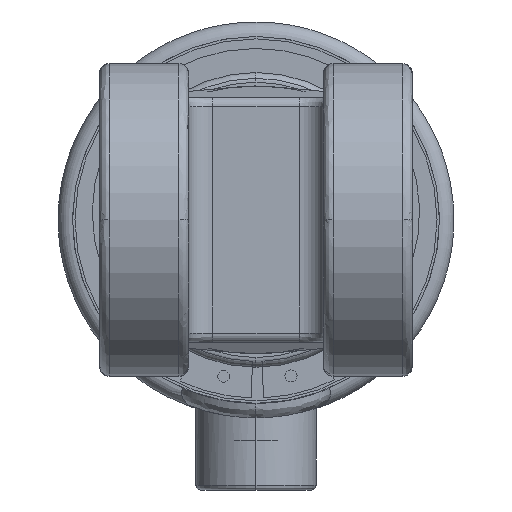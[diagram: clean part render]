
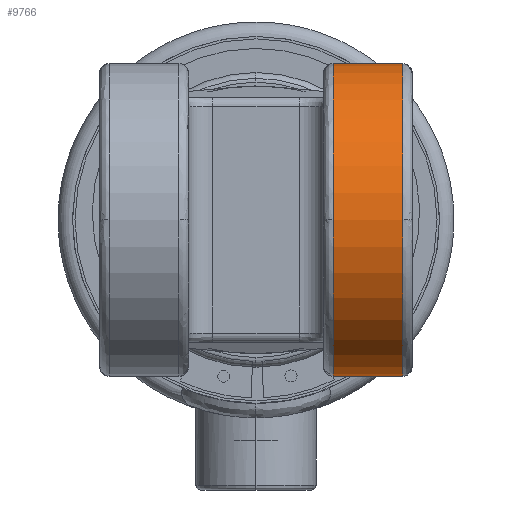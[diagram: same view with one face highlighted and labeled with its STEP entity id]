
A CAD part, left-side view. The second image highlights one B-rep face of the part: STEP entity #9766.
In plain terms, the highlighted cylindrical face has radius 32.5 mm (diameter 65 mm), a partial arc.
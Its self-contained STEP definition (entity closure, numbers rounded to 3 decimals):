
#132 = VERTEX_POINT ( 'NONE', #5764 ) ;
#328 = DIRECTION ( 'NONE',  ( 0., 0., 1. ) ) ;
#756 = AXIS2_PLACEMENT_3D ( 'NONE', #10967, #5844, #328 ) ;
#1056 = VECTOR ( 'NONE', #6807, 1000. ) ;
#1123 = CARTESIAN_POINT ( 'NONE',  ( 44.795, -16., 0. ) ) ;
#1366 = EDGE_CURVE ( 'NONE', #3428, #132, #6520, .T. ) ;
#1514 = CARTESIAN_POINT ( 'NONE',  ( 77.295, -30.5, 0. ) ) ;
#1843 = CARTESIAN_POINT ( 'NONE',  ( 44.795, -16., 32.5 ) ) ;
#1953 = VERTEX_POINT ( 'NONE', #1971 ) ;
#1971 = CARTESIAN_POINT ( 'NONE',  ( 77.295, -16., 0. ) ) ;
#2047 = DIRECTION ( 'NONE',  ( 1., 0., 0. ) ) ;
#2428 = EDGE_LOOP ( 'NONE', ( #6184, #5328, #8487, #8565, #8152, #5194 ) ) ;
#2706 = CIRCLE ( 'NONE', #756, 32.5 ) ;
#3428 = VERTEX_POINT ( 'NONE', #10613 ) ;
#3766 = CARTESIAN_POINT ( 'NONE',  ( 44.795, -30.5, 32.5 ) ) ;
#3818 = EDGE_CURVE ( 'NONE', #1953, #132, #10902, .T. ) ;
#4081 = DIRECTION ( 'NONE',  ( 0., 1., 0. ) ) ;
#4283 = CYLINDRICAL_SURFACE ( 'NONE', #7677, 32.5 ) ;
#4416 = VERTEX_POINT ( 'NONE', #3766 ) ;
#4976 = CARTESIAN_POINT ( 'NONE',  ( 44.795, -16., 0. ) ) ;
#4986 = CARTESIAN_POINT ( 'NONE',  ( 44.795, -32.5, -32.5 ) ) ;
#5014 = AXIS2_PLACEMENT_3D ( 'NONE', #1123, #7528, #2047 ) ;
#5194 = ORIENTED_EDGE ( 'NONE', *, *, #11397, .F. ) ;
#5273 = DIRECTION ( 'NONE',  ( 0., 1., 0. ) ) ;
#5328 = ORIENTED_EDGE ( 'NONE', *, *, #7512, .T. ) ;
#5739 = DIRECTION ( 'NONE',  ( 0., 1., 0. ) ) ;
#5764 = CARTESIAN_POINT ( 'NONE',  ( 44.795, -16., -32.5 ) ) ;
#5844 = DIRECTION ( 'NONE',  ( 0., 1., 0. ) ) ;
#5911 = DIRECTION ( 'NONE',  ( 1., 0., 0. ) ) ;
#6028 = VECTOR ( 'NONE', #5739, 1000. ) ;
#6184 = ORIENTED_EDGE ( 'NONE', *, *, #9488, .T. ) ;
#6433 = VERTEX_POINT ( 'NONE', #1843 ) ;
#6520 = LINE ( 'NONE', #4986, #1056 ) ;
#6623 = CIRCLE ( 'NONE', #8859, 32.5 ) ;
#6807 = DIRECTION ( 'NONE',  ( 0., 1., 0. ) ) ;
#7161 = AXIS2_PLACEMENT_3D ( 'NONE', #4976, #11028, #5911 ) ;
#7469 = VERTEX_POINT ( 'NONE', #1514 ) ;
#7512 = EDGE_CURVE ( 'NONE', #7469, #3428, #6623, .T. ) ;
#7528 = DIRECTION ( 'NONE',  ( 0., 1., 0. ) ) ;
#7677 = AXIS2_PLACEMENT_3D ( 'NONE', #9461, #4081, #10246 ) ;
#7825 = EDGE_CURVE ( 'NONE', #6433, #1953, #8597, .T. ) ;
#8110 = LINE ( 'NONE', #10872, #6028 ) ;
#8152 = ORIENTED_EDGE ( 'NONE', *, *, #7825, .F. ) ;
#8487 = ORIENTED_EDGE ( 'NONE', *, *, #1366, .T. ) ;
#8565 = ORIENTED_EDGE ( 'NONE', *, *, #3818, .F. ) ;
#8597 = CIRCLE ( 'NONE', #5014, 32.5 ) ;
#8859 = AXIS2_PLACEMENT_3D ( 'NONE', #10464, #5273, #11271 ) ;
#9098 = FACE_OUTER_BOUND ( 'NONE', #2428, .T. ) ;
#9461 = CARTESIAN_POINT ( 'NONE',  ( 44.795, -32.5, 0. ) ) ;
#9488 = EDGE_CURVE ( 'NONE', #4416, #7469, #2706, .T. ) ;
#9766 = ADVANCED_FACE ( 'NONE', ( #9098 ), #4283, .T. ) ;
#10246 = DIRECTION ( 'NONE',  ( 0., 0., 1. ) ) ;
#10464 = CARTESIAN_POINT ( 'NONE',  ( 44.795, -30.5, 0. ) ) ;
#10613 = CARTESIAN_POINT ( 'NONE',  ( 44.795, -30.5, -32.5 ) ) ;
#10872 = CARTESIAN_POINT ( 'NONE',  ( 44.795, -32.5, 32.5 ) ) ;
#10902 = CIRCLE ( 'NONE', #7161, 32.5 ) ;
#10967 = CARTESIAN_POINT ( 'NONE',  ( 44.795, -30.5, 0. ) ) ;
#11028 = DIRECTION ( 'NONE',  ( 0., 1., 0. ) ) ;
#11271 = DIRECTION ( 'NONE',  ( 0., 0., 1. ) ) ;
#11397 = EDGE_CURVE ( 'NONE', #4416, #6433, #8110, .T. ) ;
